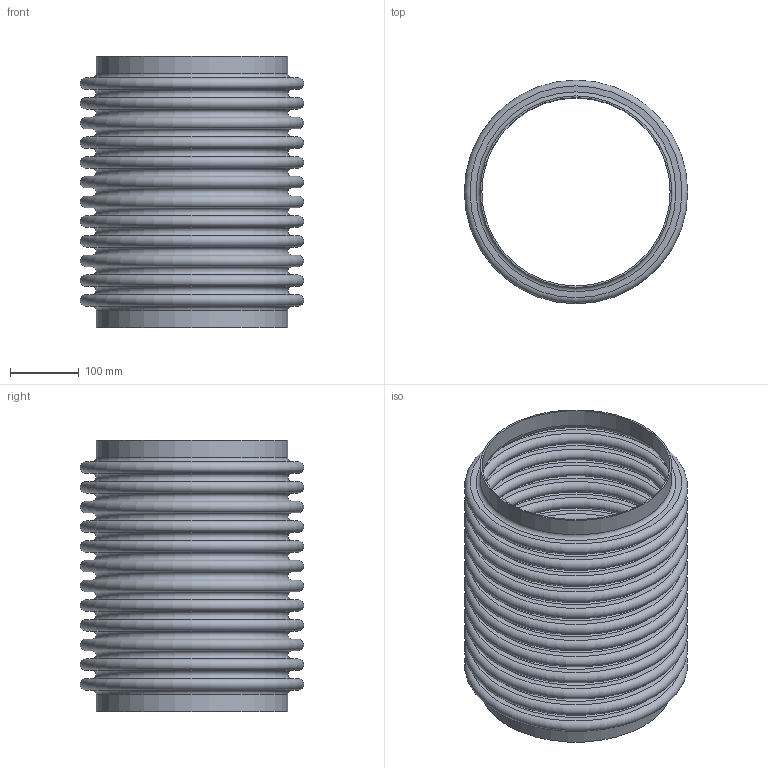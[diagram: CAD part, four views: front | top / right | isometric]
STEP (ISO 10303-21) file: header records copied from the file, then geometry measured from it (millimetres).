
FILE_DESCRIPTION(/* description */ ('STOCK BELLOWS: U.S-10-12-300L, 10.750 I.D., 12.750 O.D., 2 PLY, 18 GA (0.048 THICK), 12 CONS., 1.125 PITCH, 1.000 TANGENT. '),/* implementation_level */ '2;1');
FILE_NAME(/* name */ 'STOCK BELLOW - US-10-12-300L.stp',/* time_stamp */ '2026-07-21T13:28:25-05:00',/* author */ ('KennethB'),/* organization */ (''),/* preprocessor_version */ 'ST-DEVELOPER v20.1',/* originating_system */ 'Autodesk Inventor 2026',/* authorisation */ '');
FILE_SCHEMA (('AUTOMOTIVE_DESIGN { 1 0 10303 214 3 1 1 }'));
Length unit declared in the file: inch
Products named in the file (1): STOCK BELLOW - US-10-12-300L
Bounding box: 323.85 x 323.85 x 393.7 mm (x, y, z)
Volume: 1814598.9 mm3; surface area: 1501014.4 mm2
Topology: 3 solids, 3 shells, 108 faces, 162 edges, 109 vertices
Faces by surface type: plane 54, torus 50, cylinder 4
Full cylindrical faces by diameter (mm): 273.05 x2, 277.927 x2
Entity records: 2550 total; most frequent: DIRECTION 538, CARTESIAN_POINT 380, ORIENTED_EDGE 324, AXIS2_PLACEMENT_3D 267, EDGE_LOOP 162, EDGE_CURVE 162, CIRCLE 158, FACE_OUTER_BOUND 108
